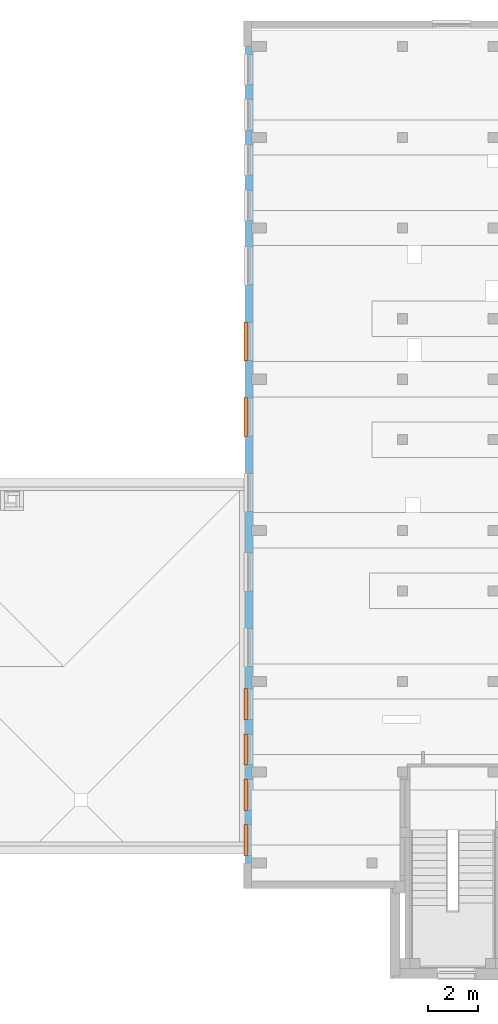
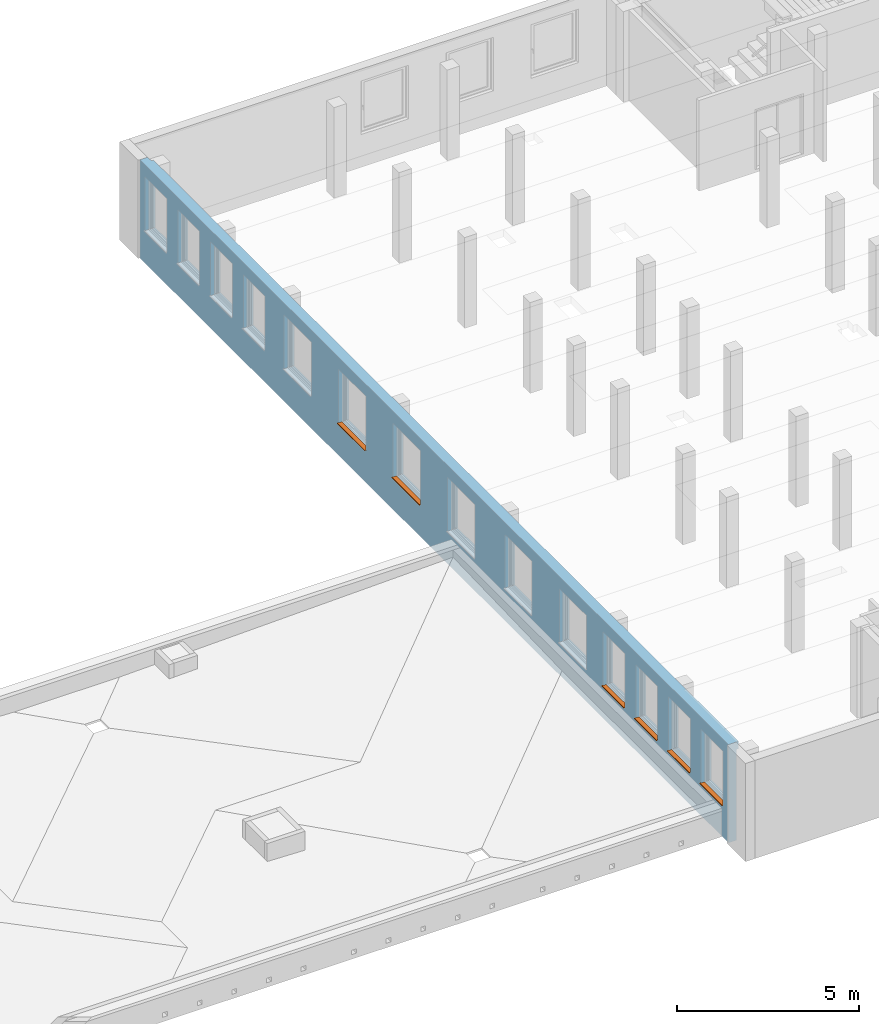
# One storey, part 19 of 27: 6 proxies, 14 openings, plus 1 element that does not belong to this part.
"""IFC4 building model written with IfcOpenShell, lengths in metres."""

from ifc_helpers import new_model, entity, si_unit, converted_unit, derived_unit, frame, origin, origin_with_axes, place, context, subcontext, project, spatial, polyline, outline, extrude, clip, bounded_halfspace, faceted_brep, source, transform, mapped, material, layer, layer_set, layer_usage, element, fill, save


model = new_model("IFC4")

# Units and contexts
model_context = context("Model", 3, precision=1e-05, world=origin())
body_context = subcontext(model_context, "Body", "Model", "MODEL_VIEW")
ifc_project = project(units=[si_unit("LENGTHUNIT", "METRE"), si_unit("AREAUNIT", "SQUARE_METRE"), si_unit("VOLUMEUNIT", "CUBIC_METRE"), si_unit("MASSUNIT", "GRAM", prefix="KILO"), converted_unit("PLANEANGLEUNIT", "DEGREE", entity("IfcPlaneAngleMeasure", 0.0174532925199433), si_unit("PLANEANGLEUNIT", "RADIAN"), dimensions=[0, 0, 0, 0, 0, 0, 0]), derived_unit("THERMALTRANSMITTANCEUNIT", [(si_unit("POWERUNIT", "WATT"), 1), (si_unit("THERMODYNAMICTEMPERATUREUNIT", "KELVIN"), -1), (si_unit("LENGTHUNIT", "METRE"), -2)]), derived_unit("VOLUMETRICFLOWRATEUNIT", [(si_unit("LENGTHUNIT", "METRE"), 3), (converted_unit("TIMEUNIT", "hour", entity("IfcTimeMeasure", 3600.0), si_unit("TIMEUNIT", "SECOND"), dimensions=[0, 0, 1, 0, 0, 0, 0]), -1), (si_unit("LENGTHUNIT", "METRE"), -1)])], contexts=[model_context])

# Site, building, storey
site_placement = place(None, origin())
site = spatial("IfcSite", under=ifc_project, at=site_placement, Name="3. ASŘ", CompositionType="ELEMENT")
building_placement = place(site_placement, origin())
building = spatial("IfcBuilding", under=site, at=building_placement, Name="Pavilon C", CompositionType="ELEMENT")
storey_placement = place(building_placement, frame((0.0, 0.0, 7.2)))
storey = spatial("IfcBuildingStorey", under=building, at=storey_placement, Name="Půdorys 3.NP", CompositionType="ELEMENT", Elevation=7.2)

# Wall, openings, proxies
ifc_material_1 = material(Name="ZELEZOBETONOVÁ KCE")
ifc_layer = layer(ifc_material_1, 0.32)
ifc_layer_set = layer_set([ifc_layer])
ifc_layer_usage = layer_usage(ifc_layer_set, "AXIS2", "POSITIVE", 0.0)
wall_placement = place(storey_placement, frame((24.5, 32.4, -0.1), z_axis=(0.0, 0.0, 1.0), x_axis=(-2.24566593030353e-16, -1.0, 0.0)))
wall = element("IfcWall", 1, at=wall_placement, inside=storey, material=ifc_layer_usage, Name="ZELEZOBETONOVÁ KCE", context=body_context, shape_type="Clipping", body=[
    clip(clip(clip(clip(clip(clip(clip(extrude(outline(polyline([(-32.4, 0.0), (-7.18613097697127e-17, -1.61376495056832e-32), (-7.18613097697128e-17, 0.32), (-32.2, 0.32), (-32.2, 0.25), (-32.4, 0.25), (-32.4, 0.0)])), frame((32.4, 0.0, 0.0), z_axis=(0.0, 0.0, 1.0), x_axis=(1.0, 0.0, 0.0)), (0.0, 0.0, 1.0), 3.3), bounded_halfspace(frame((7.2, 0.285000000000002, 3.05), z_axis=(0.0, 0.0, 1.0), x_axis=(2.24566593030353e-16, -1.0, 0.0)), True, origin_with_axes(), polyline([(7.0, 0.320000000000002), (7.0, 0.250000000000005), (7.4, 0.250000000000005), (7.4, 0.320000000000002), (7.0, 0.320000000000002)]))), bounded_halfspace(frame((3.6, 0.285000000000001, 3.05), z_axis=(0.0, 0.0, 1.0), x_axis=(2.24566593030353e-16, -1.0, 0.0)), True, origin_with_axes(), polyline([(3.4, 0.320000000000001), (3.4, 0.250000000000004), (3.8, 0.250000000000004), (3.8, 0.320000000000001), (3.4, 0.320000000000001)]))), bounded_halfspace(frame((19.2, 0.285000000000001, 3.05), z_axis=(0.0, 0.0, 1.0), x_axis=(2.24566593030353e-16, -1.0, 0.0)), True, origin_with_axes(), polyline([(19.0, 0.320000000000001), (19.0, 0.249999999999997), (19.4, 0.249999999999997), (19.4, 0.320000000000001), (19.0, 0.320000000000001)]))), bounded_halfspace(frame((25.2, 0.284999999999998, 3.05), z_axis=(0.0, 0.0, 1.0), x_axis=(2.24566593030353e-16, -1.0, 0.0)), True, origin_with_axes(), polyline([(25.0, 0.319999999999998), (25.0, 0.249999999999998), (25.4, 0.249999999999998), (25.4, 0.319999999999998), (25.0, 0.319999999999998)]))), bounded_halfspace(frame((28.8, 0.284999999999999, 3.05), z_axis=(0.0, 0.0, 1.0), x_axis=(2.24566593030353e-16, -1.0, 0.0)), True, origin_with_axes(), polyline([(28.6, 0.319999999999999), (28.6, 0.249999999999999), (29.0, 0.249999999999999), (29.0, 0.319999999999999), (28.6, 0.319999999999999)]))), bounded_halfspace(frame((32.3, 0.285, 3.05), z_axis=(0.0, 0.0, 1.0), x_axis=(2.24566593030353e-16, -1.0, 0.0)), True, origin_with_axes(), polyline([(32.2, 0.32), (32.2, 0.25), (32.4, 0.25), (32.4, 0.32), (32.2, 0.32)]))), bounded_halfspace(frame((13.2, 0.285000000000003, 3.05), z_axis=(0.0, 0.0, 1.0), x_axis=(2.24566593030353e-16, -1.0, 0.0)), True, origin_with_axes(), polyline([(13.0, 0.319999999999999), (13.0, 0.250000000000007), (13.4, 0.250000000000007), (13.4, 0.319999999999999), (13.0, 0.319999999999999)]))),
])
opening_1_placement = place(wall_placement, frame((25.5, -1.54950949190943e-15, 1.1), z_axis=(0.0, 1.0, 0.0), x_axis=(0.0, 0.0, 1.0)))
opening_1 = element("IfcOpeningElement", 2, at=opening_1_placement, cuts=wall, Name="Okenní otvor", ObjectType="Opening", context=body_context, shape_type="SweptSolid", body=[
    extrude(outline(polyline([(0.0, 1.2), (1.8, 1.2), (1.8, 0.0), (0.0, 0.0), (0.0, 1.2)])), origin_with_axes(), (0.0, 0.0, 1.0), 0.32),
])
opening_2_placement = place(wall_placement, frame((27.3, -1.1452896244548e-15, 1.1), z_axis=(0.0, 1.0, 0.0), x_axis=(0.0, 0.0, 1.0)))
opening_2 = element("IfcOpeningElement", 3, at=opening_2_placement, cuts=wall, Name="Okenní otvor", ObjectType="Opening", context=body_context, shape_type="SweptSolid", body=[
    extrude(outline(polyline([(0.0, 1.2), (1.8, 1.2), (1.8, 0.0), (0.0, 0.0), (0.0, 1.2)])), origin_with_axes(), (0.0, 0.0, 1.0), 0.32),
])
opening_3_placement = place(wall_placement, frame((29.1, -7.41069757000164e-16, 1.1), z_axis=(0.0, 1.0, 0.0), x_axis=(0.0, 0.0, 1.0)))
opening_3 = element("IfcOpeningElement", 4, at=opening_3_placement, cuts=wall, Name="Okenní otvor", ObjectType="Opening", context=body_context, shape_type="SweptSolid", body=[
    extrude(outline(polyline([(0.0, 1.2), (1.8, 1.2), (1.8, 0.0), (0.0, 0.0), (0.0, 1.2)])), origin_with_axes(), (0.0, 0.0, 1.0), 0.32),
])
opening_4_placement = place(wall_placement, frame((30.9, -3.36849889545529e-16, 1.1), z_axis=(0.0, 1.0, 0.0), x_axis=(0.0, 0.0, 1.0)))
opening_4 = element("IfcOpeningElement", 5, at=opening_4_placement, cuts=wall, Name="Okenní otvor", ObjectType="Opening", context=body_context, shape_type="SweptSolid", body=[
    extrude(outline(polyline([(0.0, 1.2), (1.8, 1.2), (1.8, 0.0), (0.0, 0.0), (0.0, 1.2)])), origin_with_axes(), (0.0, 0.0, 1.0), 0.32),
])
opening_5_placement = place(wall_placement, frame((13.95, -5.05274834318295e-16, 1.1), z_axis=(0.0, 1.0, 0.0), x_axis=(0.0, 0.0, 1.0)))
opening_5 = element("IfcOpeningElement", 6, at=opening_5_placement, cuts=wall, Name="Okenní otvor", ObjectType="Opening", context=body_context, shape_type="SweptSolid", body=[
    extrude(outline(polyline([(0.0, 1.5), (1.8, 1.5), (1.8, 0.0), (0.0, 0.0), (0.0, 1.5)])), origin_with_axes(), (0.0, 0.0, 1.0), 0.32),
])
opening_6_placement = place(wall_placement, frame((10.95, -1.17897461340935e-15, 1.1), z_axis=(0.0, 1.0, 0.0), x_axis=(0.0, 0.0, 1.0)))
opening_6 = element("IfcOpeningElement", 7, at=opening_6_placement, cuts=wall, Name="Okenní otvor", ObjectType="Opening", context=body_context, shape_type="SweptSolid", body=[
    extrude(outline(polyline([(0.0, 1.5), (1.8, 1.5), (1.8, 0.0), (0.0, 0.0), (0.0, 1.5)])), origin_with_axes(), (0.0, 0.0, 1.0), 0.32),
])
opening_7_placement = place(wall_placement, frame((16.95, 1.68424944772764e-16, 1.1), z_axis=(0.0, 1.0, 0.0), x_axis=(0.0, 0.0, 1.0)))
element("IfcOpeningElement", 8, at=opening_7_placement, cuts=wall, Name="Okenní otvor", ObjectType="Opening", context=body_context, shape_type="SweptSolid", body=[
    extrude(outline(polyline([(0.0, 1.5), (1.8, 1.5), (1.8, 0.0), (0.0, 0.0), (0.0, 1.5)])), origin_with_axes(), (0.0, 0.0, 1.0), 0.32),
])
opening_8_placement = place(wall_placement, frame((20.1, 8.75809712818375e-16, 1.1), z_axis=(0.0, 1.0, 0.0), x_axis=(0.0, 0.0, 1.0)))
element("IfcOpeningElement", 9, at=opening_8_placement, cuts=wall, Name="Okenní otvor", ObjectType="Opening", context=body_context, shape_type="SweptSolid", body=[
    extrude(outline(polyline([(0.0, 1.5), (1.8, 1.5), (1.8, 0.0), (0.0, 0.0), (0.0, 1.5)])), origin_with_axes(), (0.0, 0.0, 1.0), 0.32),
])
opening_9_placement = place(wall_placement, frame((23.1, -2.08846931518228e-15, 1.1), z_axis=(0.0, 1.0, 0.0), x_axis=(0.0, 0.0, 1.0)))
element("IfcOpeningElement", 10, at=opening_9_placement, cuts=wall, Name="Okenní otvor", ObjectType="Opening", context=body_context, shape_type="SweptSolid", body=[
    extrude(outline(polyline([(0.0, 1.5), (1.8, 1.5), (1.8, 0.0), (0.0, 0.0), (0.0, 1.5)])), origin_with_axes(), (0.0, 0.0, 1.0), 0.320000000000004),
])
opening_10_placement = place(wall_placement, frame((7.95, -1.85267439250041e-15, 1.1), z_axis=(0.0, 1.0, 0.0), x_axis=(0.0, 0.0, 1.0)))
element("IfcOpeningElement", 11, at=opening_10_placement, cuts=wall, Name="Okenní otvor", ObjectType="Opening", context=body_context, shape_type="SweptSolid", body=[
    extrude(outline(polyline([(0.0, 1.5), (1.8, 1.5), (1.8, 0.0), (0.0, 0.0), (0.0, 1.5)])), origin_with_axes(), (0.0, 0.0, 1.0), 0.320000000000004),
])
opening_11_placement = place(wall_placement, frame((2.10000000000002, 4.71589845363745e-16, 1.1), z_axis=(0.0, 1.0, 0.0), x_axis=(0.0, 0.0, 1.0)))
element("IfcOpeningElement", 12, at=opening_11_placement, cuts=wall, Name="Okenní otvor", ObjectType="Opening", context=body_context, shape_type="SweptSolid", body=[
    extrude(outline(polyline([(0.0, 1.2), (1.8, 1.2), (1.8, 0.0), (0.0, 0.0), (0.0, 1.2)])), origin_with_axes(), (0.0, 0.0, 1.0), 0.32),
])
opening_12_placement = place(wall_placement, frame((3.90000000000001, 8.75809712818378e-16, 1.1), z_axis=(0.0, 1.0, 0.0), x_axis=(0.0, 0.0, 1.0)))
element("IfcOpeningElement", 13, at=opening_12_placement, cuts=wall, Name="Okenní otvor", ObjectType="Opening", context=body_context, shape_type="SweptSolid", body=[
    extrude(outline(polyline([(0.0, 1.2), (1.8, 1.2), (1.8, 0.0), (0.0, 0.0), (0.0, 1.2)])), origin_with_axes(), (0.0, 0.0, 1.0), 0.32),
])
opening_13_placement = place(wall_placement, frame((5.7, 1.28002958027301e-15, 1.1), z_axis=(0.0, 1.0, 0.0), x_axis=(0.0, 0.0, 1.0)))
element("IfcOpeningElement", 14, at=opening_13_placement, cuts=wall, Name="Okenní otvor", ObjectType="Opening", context=body_context, shape_type="SweptSolid", body=[
    extrude(outline(polyline([(0.0, 1.2), (1.8, 1.2), (1.8, 0.0), (0.0, 0.0), (0.0, 1.2)])), origin_with_axes(), (0.0, 0.0, 1.0), 0.32),
])
opening_14_placement = place(wall_placement, frame((0.300000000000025, 6.73699779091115e-17, 1.1), z_axis=(-1.77635683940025e-16, 1.0, 0.0), x_axis=(0.0, 0.0, 1.0)))
element("IfcOpeningElement", 15, at=opening_14_placement, cuts=wall, Name="Okenní otvor", ObjectType="Opening", context=body_context, shape_type="SweptSolid", body=[
    extrude(outline(polyline([(0.0, 1.2), (1.8, 1.2), (1.8, 0.0), (0.0, 0.0), (0.0, 1.2)])), origin_with_axes(), (0.0, 0.0, 1.0), 0.32),
])
ifc_material_2 = material(Name="PLECH")
shared_shape_1 = source(origin_with_axes(), body_context, "Body", "Brep", [
    faceted_brep([(5.45696821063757e-15, -7.27595761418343e-15, 0.0), (5.45696821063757e-15, 0.0999999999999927, 0.0), (5.45696821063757e-15, 0.0999999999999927, 0.005), (5.45696821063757e-15, -7.27595761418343e-15, 0.005), (1.20000000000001, -7.27595761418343e-15, 0.0), (1.20000000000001, -7.27595761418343e-15, 0.005), (1.20000000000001, 0.0999999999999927, 0.005), (1.20000000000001, 0.0999999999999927, 0.0), (-0.0199999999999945, -7.27595761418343e-15, 0.0), (-0.0199999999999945, -0.0350000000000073, 0.0), (1.22000000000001, -0.0350000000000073, 0.0), (1.22000000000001, -7.27595761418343e-15, 0.0), (1.22000000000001, -7.27595761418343e-15, 0.005), (1.22000000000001, -0.0400000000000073, 0.005), (-0.0199999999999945, -0.0400000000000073, 0.005), (-0.0199999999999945, -7.27595761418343e-15, 0.005), (-0.0199999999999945, -0.0400000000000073, -0.025), (-0.0199999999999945, -0.0350000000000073, -0.025), (1.22000000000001, -0.0350000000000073, -0.025), (1.22000000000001, -0.0400000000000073, -0.025)], [[[0, 1, 2, 3]], [[4, 5, 6, 7]], [[1, 0, 8, 9, 10, 11, 4, 7]], [[2, 1, 7, 6]], [[3, 2, 6, 5, 12, 13, 14, 15]], [[8, 15, 14, 16, 17, 9]], [[11, 10, 18, 19, 13, 12]], [[15, 8, 0, 3]], [[5, 4, 11, 12]], [[16, 14, 13, 19]], [[17, 16, 19, 18]], [[9, 17, 18, 10]]], orient=[[False], [False], [False], [False], [False], [False], [False], [False], [False], [False], [False], [False]]),
    faceted_brep([(-0.0199999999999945, -7.27595761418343e-15, 0.0), (-0.0199999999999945, 0.0999999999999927, 0.0), (-0.0199999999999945, 0.0999999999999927, 0.005), (-0.0199999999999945, -7.27595761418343e-15, 0.005), (5.45696821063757e-15, -7.27595761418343e-15, 0.0), (5.45696821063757e-15, -7.27595761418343e-15, 0.005), (5.45696821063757e-15, 0.0999999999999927, 0.005), (5.45696821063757e-15, 0.0999999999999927, 0.0)], [[[0, 1, 2, 3]], [[4, 5, 6, 7]], [[1, 0, 4, 7]], [[2, 1, 7, 6]], [[3, 2, 6, 5]], [[0, 3, 5, 4]]], orient=[[False], [False], [False], [False], [False], [False]]),
    faceted_brep([(1.20000000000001, -7.27595761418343e-15, 0.0), (1.20000000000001, 0.0999999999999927, 0.0), (1.20000000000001, 0.0999999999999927, 0.005), (1.20000000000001, -7.27595761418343e-15, 0.005), (1.22000000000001, -7.27595761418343e-15, 0.0), (1.22000000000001, -7.27595761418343e-15, 0.005), (1.22000000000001, 0.0999999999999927, 0.005), (1.22000000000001, 0.0999999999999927, 0.0)], [[[0, 1, 2, 3]], [[4, 5, 6, 7]], [[1, 0, 4, 7]], [[2, 1, 7, 6]], [[3, 2, 6, 5]], [[0, 3, 5, 4]]], orient=[[False], [False], [False], [False], [False], [False]]),
])
proxy_1_placement = place(opening_1_placement, frame((0.0, 0.0, 0.0), z_axis=(1.0, 0.0, 0.0), x_axis=(0.0, 1.0, 0.0)))
proxy_1 = element("IfcBuildingElementProxy", 16, at=proxy_1_placement, inside=storey, material=ifc_material_2, Name="Parapet vnější", context=body_context, shape_type="MappedRepresentation", body=[
    mapped(shared_shape_1, transform((0.0, 0.0, 0.0), x_axis=(1.0, 0.0, 0.0), y_axis=(0.0, 1.0, 0.0), z_axis=(0.0, 0.0, 1.0), scale=1.0)),
])
fill(opening_1, proxy_1)
ifc_material_3 = material(Name="PLECH")
shared_shape_2 = source(origin_with_axes(), body_context, "Body", "Brep", [
    faceted_brep([(5.45696821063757e-15, -7.27595761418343e-15, 0.0), (5.45696821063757e-15, 0.0999999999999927, 0.0), (5.45696821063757e-15, 0.0999999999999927, 0.005), (5.45696821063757e-15, -7.27595761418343e-15, 0.005), (1.20000000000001, -7.27595761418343e-15, 0.0), (1.20000000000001, -7.27595761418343e-15, 0.005), (1.20000000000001, 0.0999999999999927, 0.005), (1.20000000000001, 0.0999999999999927, 0.0), (-0.0199999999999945, -7.27595761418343e-15, 0.0), (-0.0199999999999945, -0.0350000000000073, 0.0), (1.22000000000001, -0.0350000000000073, 0.0), (1.22000000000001, -7.27595761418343e-15, 0.0), (1.22000000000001, -7.27595761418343e-15, 0.005), (1.22000000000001, -0.0400000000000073, 0.005), (-0.0199999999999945, -0.0400000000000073, 0.005), (-0.0199999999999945, -7.27595761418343e-15, 0.005), (-0.0199999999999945, -0.0400000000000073, -0.025), (-0.0199999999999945, -0.0350000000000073, -0.025), (1.22000000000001, -0.0350000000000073, -0.025), (1.22000000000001, -0.0400000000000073, -0.025)], [[[0, 1, 2, 3]], [[4, 5, 6, 7]], [[1, 0, 8, 9, 10, 11, 4, 7]], [[2, 1, 7, 6]], [[3, 2, 6, 5, 12, 13, 14, 15]], [[8, 15, 14, 16, 17, 9]], [[11, 10, 18, 19, 13, 12]], [[15, 8, 0, 3]], [[5, 4, 11, 12]], [[16, 14, 13, 19]], [[17, 16, 19, 18]], [[9, 17, 18, 10]]], orient=[[False], [False], [False], [False], [False], [False], [False], [False], [False], [False], [False], [False]]),
    faceted_brep([(-0.0199999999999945, -7.27595761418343e-15, 0.0), (-0.0199999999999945, 0.0999999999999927, 0.0), (-0.0199999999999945, 0.0999999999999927, 0.005), (-0.0199999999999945, -7.27595761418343e-15, 0.005), (5.45696821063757e-15, -7.27595761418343e-15, 0.0), (5.45696821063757e-15, -7.27595761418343e-15, 0.005), (5.45696821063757e-15, 0.0999999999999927, 0.005), (5.45696821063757e-15, 0.0999999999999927, 0.0)], [[[0, 1, 2, 3]], [[4, 5, 6, 7]], [[1, 0, 4, 7]], [[2, 1, 7, 6]], [[3, 2, 6, 5]], [[0, 3, 5, 4]]], orient=[[False], [False], [False], [False], [False], [False]]),
    faceted_brep([(1.20000000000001, -7.27595761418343e-15, 0.0), (1.20000000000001, 0.0999999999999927, 0.0), (1.20000000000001, 0.0999999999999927, 0.005), (1.20000000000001, -7.27595761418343e-15, 0.005), (1.22000000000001, -7.27595761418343e-15, 0.0), (1.22000000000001, -7.27595761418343e-15, 0.005), (1.22000000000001, 0.0999999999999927, 0.005), (1.22000000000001, 0.0999999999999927, 0.0)], [[[0, 1, 2, 3]], [[4, 5, 6, 7]], [[1, 0, 4, 7]], [[2, 1, 7, 6]], [[3, 2, 6, 5]], [[0, 3, 5, 4]]], orient=[[False], [False], [False], [False], [False], [False]]),
])
proxy_2_placement = place(opening_2_placement, frame((0.0, 0.0, 0.0), z_axis=(1.0, 0.0, 0.0), x_axis=(0.0, 1.0, 0.0)))
proxy_2 = element("IfcBuildingElementProxy", 17, at=proxy_2_placement, inside=storey, material=ifc_material_3, Name="Parapet vnější", context=body_context, shape_type="MappedRepresentation", body=[
    mapped(shared_shape_2, transform((0.0, 0.0, 0.0), x_axis=(1.0, 0.0, 0.0), y_axis=(0.0, 1.0, 0.0), z_axis=(0.0, 0.0, 1.0), scale=1.0)),
])
fill(opening_2, proxy_2)
ifc_material_4 = material(Name="PLECH")
shared_shape_3 = source(origin_with_axes(), body_context, "Body", "Brep", [
    faceted_brep([(4.54747350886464e-15, -7.27595761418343e-15, 0.0), (4.54747350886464e-15, 0.0999999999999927, 0.0), (4.54747350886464e-15, 0.0999999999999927, 0.005), (4.54747350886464e-15, -7.27595761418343e-15, 0.005), (1.2, -7.27595761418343e-15, 0.0), (1.2, -7.27595761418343e-15, 0.005), (1.2, 0.0999999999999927, 0.005), (1.2, 0.0999999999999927, 0.0), (-0.0199999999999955, -7.27595761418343e-15, 0.0), (-0.0199999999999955, -0.0350000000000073, 0.0), (1.22, -0.0350000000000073, 0.0), (1.22, -7.27595761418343e-15, 0.0), (1.22, -7.27595761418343e-15, 0.005), (1.22, -0.0400000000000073, 0.005), (-0.0199999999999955, -0.0400000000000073, 0.005), (-0.0199999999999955, -7.27595761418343e-15, 0.005), (-0.0199999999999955, -0.0400000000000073, -0.025), (-0.0199999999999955, -0.0350000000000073, -0.025), (1.22, -0.0350000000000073, -0.025), (1.22, -0.0400000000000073, -0.025)], [[[0, 1, 2, 3]], [[4, 5, 6, 7]], [[1, 0, 8, 9, 10, 11, 4, 7]], [[2, 1, 7, 6]], [[3, 2, 6, 5, 12, 13, 14, 15]], [[8, 15, 14, 16, 17, 9]], [[11, 10, 18, 19, 13, 12]], [[15, 8, 0, 3]], [[5, 4, 11, 12]], [[16, 14, 13, 19]], [[17, 16, 19, 18]], [[9, 17, 18, 10]]], orient=[[False], [False], [False], [False], [False], [False], [False], [False], [False], [False], [False], [False]]),
    faceted_brep([(-0.0199999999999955, -7.27595761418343e-15, 0.0), (-0.0199999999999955, 0.0999999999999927, 0.0), (-0.0199999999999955, 0.0999999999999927, 0.005), (-0.0199999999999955, -7.27595761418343e-15, 0.005), (4.54747350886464e-15, -7.27595761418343e-15, 0.0), (4.54747350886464e-15, -7.27595761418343e-15, 0.005), (4.54747350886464e-15, 0.0999999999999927, 0.005), (4.54747350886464e-15, 0.0999999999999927, 0.0)], [[[0, 1, 2, 3]], [[4, 5, 6, 7]], [[1, 0, 4, 7]], [[2, 1, 7, 6]], [[3, 2, 6, 5]], [[0, 3, 5, 4]]], orient=[[False], [False], [False], [False], [False], [False]]),
    faceted_brep([(1.2, -7.27595761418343e-15, 0.0), (1.2, 0.0999999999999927, 0.0), (1.2, 0.0999999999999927, 0.005), (1.2, -7.27595761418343e-15, 0.005), (1.22, -7.27595761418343e-15, 0.0), (1.22, -7.27595761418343e-15, 0.005), (1.22, 0.0999999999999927, 0.005), (1.22, 0.0999999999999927, 0.0)], [[[0, 1, 2, 3]], [[4, 5, 6, 7]], [[1, 0, 4, 7]], [[2, 1, 7, 6]], [[3, 2, 6, 5]], [[0, 3, 5, 4]]], orient=[[False], [False], [False], [False], [False], [False]]),
])
proxy_3_placement = place(opening_3_placement, frame((0.0, 0.0, 0.0), z_axis=(1.0, 0.0, 0.0), x_axis=(0.0, 1.0, 0.0)))
proxy_3 = element("IfcBuildingElementProxy", 18, at=proxy_3_placement, inside=storey, material=ifc_material_4, Name="Parapet vnější", context=body_context, shape_type="MappedRepresentation", body=[
    mapped(shared_shape_3, transform((0.0, 0.0, 0.0), x_axis=(1.0, 0.0, 0.0), y_axis=(0.0, 1.0, 0.0), z_axis=(0.0, 0.0, 1.0), scale=1.0)),
])
fill(opening_3, proxy_3)
ifc_material_5 = material(Name="PLECH")
shared_shape_4 = source(origin_with_axes(), body_context, "Body", "Brep", [
    faceted_brep([(4.09272615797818e-15, -7.27595761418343e-15, 0.0), (4.09272615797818e-15, 0.0999999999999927, 0.0), (4.09272615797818e-15, 0.0999999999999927, 0.005), (4.09272615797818e-15, -7.27595761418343e-15, 0.005), (1.2, -7.27595761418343e-15, 0.0), (1.2, -7.27595761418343e-15, 0.005), (1.2, 0.0999999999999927, 0.005), (1.2, 0.0999999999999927, 0.0), (-0.0199999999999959, -7.27595761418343e-15, 0.0), (-0.0199999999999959, -0.0350000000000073, 0.0), (1.22, -0.0350000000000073, 0.0), (1.22, -7.27595761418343e-15, 0.0), (1.22, -7.27595761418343e-15, 0.005), (1.22, -0.0400000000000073, 0.005), (-0.0199999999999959, -0.0400000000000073, 0.005), (-0.0199999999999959, -7.27595761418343e-15, 0.005), (-0.0199999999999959, -0.0400000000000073, -0.025), (-0.0199999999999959, -0.0350000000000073, -0.025), (1.22, -0.0350000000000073, -0.025), (1.22, -0.0400000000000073, -0.025)], [[[0, 1, 2, 3]], [[4, 5, 6, 7]], [[1, 0, 8, 9, 10, 11, 4, 7]], [[2, 1, 7, 6]], [[3, 2, 6, 5, 12, 13, 14, 15]], [[8, 15, 14, 16, 17, 9]], [[11, 10, 18, 19, 13, 12]], [[15, 8, 0, 3]], [[5, 4, 11, 12]], [[16, 14, 13, 19]], [[17, 16, 19, 18]], [[9, 17, 18, 10]]], orient=[[False], [False], [False], [False], [False], [False], [False], [False], [False], [False], [False], [False]]),
    faceted_brep([(-0.0199999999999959, -7.27595761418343e-15, 0.0), (-0.0199999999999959, 0.0999999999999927, 0.0), (-0.0199999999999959, 0.0999999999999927, 0.005), (-0.0199999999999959, -7.27595761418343e-15, 0.005), (4.09272615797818e-15, -7.27595761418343e-15, 0.0), (4.09272615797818e-15, -7.27595761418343e-15, 0.005), (4.09272615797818e-15, 0.0999999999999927, 0.005), (4.09272615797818e-15, 0.0999999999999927, 0.0)], [[[0, 1, 2, 3]], [[4, 5, 6, 7]], [[1, 0, 4, 7]], [[2, 1, 7, 6]], [[3, 2, 6, 5]], [[0, 3, 5, 4]]], orient=[[False], [False], [False], [False], [False], [False]]),
    faceted_brep([(1.2, -7.27595761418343e-15, 0.0), (1.2, 0.0999999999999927, 0.0), (1.2, 0.0999999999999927, 0.005), (1.2, -7.27595761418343e-15, 0.005), (1.22, -7.27595761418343e-15, 0.0), (1.22, -7.27595761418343e-15, 0.005), (1.22, 0.0999999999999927, 0.005), (1.22, 0.0999999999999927, 0.0)], [[[0, 1, 2, 3]], [[4, 5, 6, 7]], [[1, 0, 4, 7]], [[2, 1, 7, 6]], [[3, 2, 6, 5]], [[0, 3, 5, 4]]], orient=[[False], [False], [False], [False], [False], [False]]),
])
proxy_4_placement = place(opening_4_placement, frame((0.0, 0.0, 0.0), z_axis=(1.0, 0.0, 0.0), x_axis=(0.0, 1.0, 0.0)))
proxy_4 = element("IfcBuildingElementProxy", 19, at=proxy_4_placement, inside=storey, material=ifc_material_5, Name="Parapet vnější", context=body_context, shape_type="MappedRepresentation", body=[
    mapped(shared_shape_4, transform((0.0, 0.0, 0.0), x_axis=(1.0, 0.0, 0.0), y_axis=(0.0, 1.0, 0.0), z_axis=(0.0, 0.0, 1.0), scale=1.0)),
])
fill(opening_4, proxy_4)
ifc_material_6 = material(Name="PLECH")
shared_shape_5 = source(origin_with_axes(), body_context, "Body", "Brep", [
    faceted_brep([(7.27595761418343e-15, -7.27595761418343e-15, 0.0), (7.27595761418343e-15, 0.0999999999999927, 0.0), (7.27595761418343e-15, 0.0999999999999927, 0.005), (7.27595761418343e-15, -7.27595761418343e-15, 0.005), (1.50000000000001, -7.27595761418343e-15, 0.0), (1.50000000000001, -7.27595761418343e-15, 0.005), (1.50000000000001, 0.0999999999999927, 0.005), (1.50000000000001, 0.0999999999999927, 0.0), (-0.0199999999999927, -7.27595761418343e-15, 0.0), (-0.0199999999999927, -0.0350000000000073, 0.0), (1.52000000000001, -0.0350000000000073, 0.0), (1.52000000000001, -7.27595761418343e-15, 0.0), (1.52000000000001, -7.27595761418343e-15, 0.005), (1.52000000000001, -0.0400000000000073, 0.005), (-0.0199999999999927, -0.0400000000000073, 0.005), (-0.0199999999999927, -7.27595761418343e-15, 0.005), (-0.0199999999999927, -0.0400000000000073, -0.025), (-0.0199999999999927, -0.0350000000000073, -0.025), (1.52000000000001, -0.0350000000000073, -0.025), (1.52000000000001, -0.0400000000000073, -0.025)], [[[0, 1, 2, 3]], [[4, 5, 6, 7]], [[1, 0, 8, 9, 10, 11, 4, 7]], [[2, 1, 7, 6]], [[3, 2, 6, 5, 12, 13, 14, 15]], [[8, 15, 14, 16, 17, 9]], [[11, 10, 18, 19, 13, 12]], [[15, 8, 0, 3]], [[5, 4, 11, 12]], [[16, 14, 13, 19]], [[17, 16, 19, 18]], [[9, 17, 18, 10]]], orient=[[False], [False], [False], [False], [False], [False], [False], [False], [False], [False], [False], [False]]),
    faceted_brep([(-0.0199999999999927, -7.27595761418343e-15, 0.0), (-0.0199999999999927, 0.0999999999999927, 0.0), (-0.0199999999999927, 0.0999999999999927, 0.005), (-0.0199999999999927, -7.27595761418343e-15, 0.005), (7.27595761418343e-15, -7.27595761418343e-15, 0.0), (7.27595761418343e-15, -7.27595761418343e-15, 0.005), (7.27595761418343e-15, 0.0999999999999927, 0.005), (7.27595761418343e-15, 0.0999999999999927, 0.0)], [[[0, 1, 2, 3]], [[4, 5, 6, 7]], [[1, 0, 4, 7]], [[2, 1, 7, 6]], [[3, 2, 6, 5]], [[0, 3, 5, 4]]], orient=[[False], [False], [False], [False], [False], [False]]),
    faceted_brep([(1.50000000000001, -7.27595761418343e-15, 0.0), (1.50000000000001, 0.0999999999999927, 0.0), (1.50000000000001, 0.0999999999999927, 0.005), (1.50000000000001, -7.27595761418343e-15, 0.005), (1.52000000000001, -7.27595761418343e-15, 0.0), (1.52000000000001, -7.27595761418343e-15, 0.005), (1.52000000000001, 0.0999999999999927, 0.005), (1.52000000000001, 0.0999999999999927, 0.0)], [[[0, 1, 2, 3]], [[4, 5, 6, 7]], [[1, 0, 4, 7]], [[2, 1, 7, 6]], [[3, 2, 6, 5]], [[0, 3, 5, 4]]], orient=[[False], [False], [False], [False], [False], [False]]),
])
proxy_5_placement = place(opening_5_placement, frame((0.0, 0.0, 0.0), z_axis=(1.0, 0.0, 0.0), x_axis=(0.0, 1.0, 0.0)))
proxy_5 = element("IfcBuildingElementProxy", 20, at=proxy_5_placement, inside=storey, material=ifc_material_6, Name="Parapet vnější", context=body_context, shape_type="MappedRepresentation", body=[
    mapped(shared_shape_5, transform((0.0, 0.0, 0.0), x_axis=(1.0, 0.0, 0.0), y_axis=(0.0, 1.0, 0.0), z_axis=(0.0, 0.0, 1.0), scale=1.0)),
])
fill(opening_5, proxy_5)
ifc_material_7 = material(Name="PLECH")
shared_shape_6 = source(origin_with_axes(), body_context, "Body", "Brep", [
    faceted_brep([(1.09139364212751e-14, -7.27595761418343e-15, 0.0), (1.09139364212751e-14, 0.0999999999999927, 0.0), (1.09139364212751e-14, 0.0999999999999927, 0.005), (1.09139364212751e-14, -7.27595761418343e-15, 0.005), (1.50000000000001, -7.27595761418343e-15, 0.0), (1.50000000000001, -7.27595761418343e-15, 0.005), (1.50000000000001, 0.0999999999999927, 0.005), (1.50000000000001, 0.0999999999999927, 0.0), (-0.0199999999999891, -7.27595761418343e-15, 0.0), (-0.0199999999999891, -0.0350000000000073, 0.0), (1.52000000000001, -0.0350000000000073, 0.0), (1.52000000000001, -7.27595761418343e-15, 0.0), (1.52000000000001, -7.27595761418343e-15, 0.005), (1.52000000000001, -0.0400000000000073, 0.005), (-0.0199999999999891, -0.0400000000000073, 0.005), (-0.0199999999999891, -7.27595761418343e-15, 0.005), (-0.0199999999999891, -0.0400000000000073, -0.025), (-0.0199999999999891, -0.0350000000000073, -0.025), (1.52000000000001, -0.0350000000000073, -0.025), (1.52000000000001, -0.0400000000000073, -0.025)], [[[0, 1, 2, 3]], [[4, 5, 6, 7]], [[1, 0, 8, 9, 10, 11, 4, 7]], [[2, 1, 7, 6]], [[3, 2, 6, 5, 12, 13, 14, 15]], [[8, 15, 14, 16, 17, 9]], [[11, 10, 18, 19, 13, 12]], [[15, 8, 0, 3]], [[5, 4, 11, 12]], [[16, 14, 13, 19]], [[17, 16, 19, 18]], [[9, 17, 18, 10]]], orient=[[False], [False], [False], [False], [False], [False], [False], [False], [False], [False], [False], [False]]),
    faceted_brep([(-0.0199999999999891, -7.27595761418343e-15, 0.0), (-0.0199999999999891, 0.0999999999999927, 0.0), (-0.0199999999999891, 0.0999999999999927, 0.005), (-0.0199999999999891, -7.27595761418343e-15, 0.005), (1.09139364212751e-14, -7.27595761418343e-15, 0.0), (1.09139364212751e-14, -7.27595761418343e-15, 0.005), (1.09139364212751e-14, 0.0999999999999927, 0.005), (1.09139364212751e-14, 0.0999999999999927, 0.0)], [[[0, 1, 2, 3]], [[4, 5, 6, 7]], [[1, 0, 4, 7]], [[2, 1, 7, 6]], [[3, 2, 6, 5]], [[0, 3, 5, 4]]], orient=[[False], [False], [False], [False], [False], [False]]),
    faceted_brep([(1.50000000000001, -7.27595761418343e-15, 0.0), (1.50000000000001, 0.0999999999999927, 0.0), (1.50000000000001, 0.0999999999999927, 0.005), (1.50000000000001, -7.27595761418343e-15, 0.005), (1.52000000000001, -7.27595761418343e-15, 0.0), (1.52000000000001, -7.27595761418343e-15, 0.005), (1.52000000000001, 0.0999999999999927, 0.005), (1.52000000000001, 0.0999999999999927, 0.0)], [[[0, 1, 2, 3]], [[4, 5, 6, 7]], [[1, 0, 4, 7]], [[2, 1, 7, 6]], [[3, 2, 6, 5]], [[0, 3, 5, 4]]], orient=[[False], [False], [False], [False], [False], [False]]),
])
proxy_6_placement = place(opening_6_placement, frame((0.0, 0.0, 0.0), z_axis=(1.0, 0.0, 0.0), x_axis=(0.0, 1.0, 0.0)))
proxy_6 = element("IfcBuildingElementProxy", 21, at=proxy_6_placement, inside=storey, material=ifc_material_7, Name="Parapet vnější", context=body_context, shape_type="MappedRepresentation", body=[
    mapped(shared_shape_6, transform((0.0, 0.0, 0.0), x_axis=(1.0, 0.0, 0.0), y_axis=(0.0, 1.0, 0.0), z_axis=(0.0, 0.0, 1.0), scale=1.0)),
])
fill(opening_6, proxy_6)

save(model, "model.ifc")
